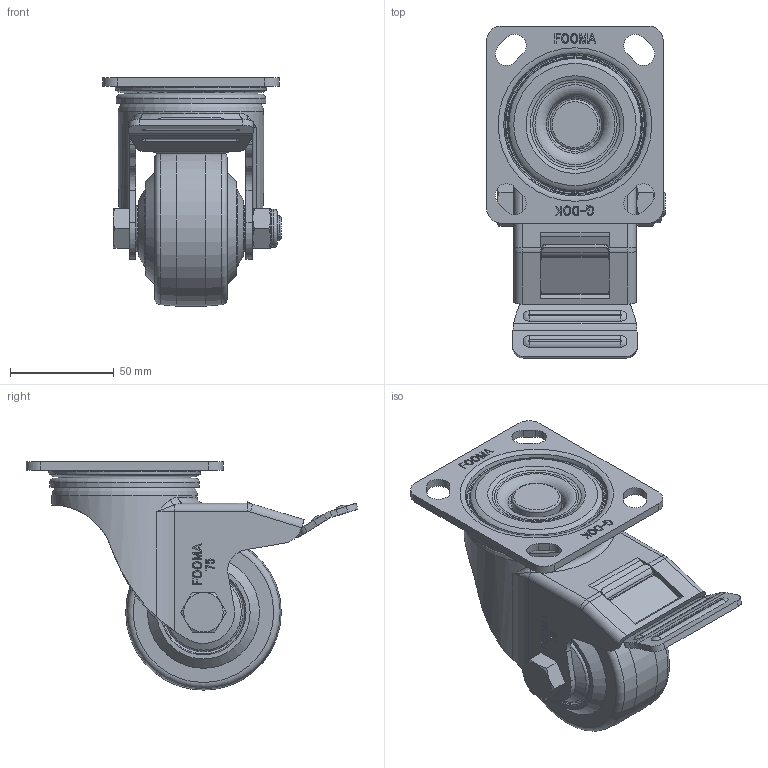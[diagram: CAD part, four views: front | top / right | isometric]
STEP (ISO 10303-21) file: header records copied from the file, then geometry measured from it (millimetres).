
FILE_DESCRIPTION(/* description */ (''),/* implementation_level */ '2;1');
FILE_NAME(/* name */ 'E:\★.DWG\★개발도면\PLM-SERIES(경중하중)-2016\홈페이지용\STEP\PLM-75-BSF-MCD.stp',/* time_stamp */ '2018-02-20T17:42:22+09:00',/* author */ ('장용하'),/* organization */ (''),/* preprocessor_version */ 'ST-DEVELOPER v16.13',/* originating_system */ 'Autodesk Inventor 2018',/* authorisation */ '');
FILE_SCHEMA (('AUTOMOTIVE_DESIGN { 1 0 10303 214 3 1 1 }'));
Length unit declared in the file: millimetre
Products named in the file (1): PLM-75-BSF-MCD ASSY_Shrinkwrap_1
Bounding box: 86 x 159.94 x 110 mm (x, y, z)
Volume: 291447.6 mm3; surface area: 79124.4 mm2
Topology: 2 solids, 2 shells, 810 faces, 2115 edges, 1365 vertices
Faces by surface type: plane 438, bspline 188, cylinder 97, torus 59, cone 28
Full cylindrical faces by diameter (mm): 12 x1, 18.5 x1, 22 x4, 24 x1, 24.4 x1, 36 x2, 38 x2, 40 x2, 53.029 x1, 54.5 x1, 64 x1, 64.418 x2, 70 x1, 70.6 x1, 72 x1, 75 x1
Entity records: 26631 total; most frequent: CARTESIAN_POINT 7187, ORIENTED_EDGE 4042, DIRECTION 3427, EDGE_CURVE 2019, VERTEX_POINT 1351, AXIS2_PLACEMENT_3D 1195, LINE 1037, VECTOR 1037
